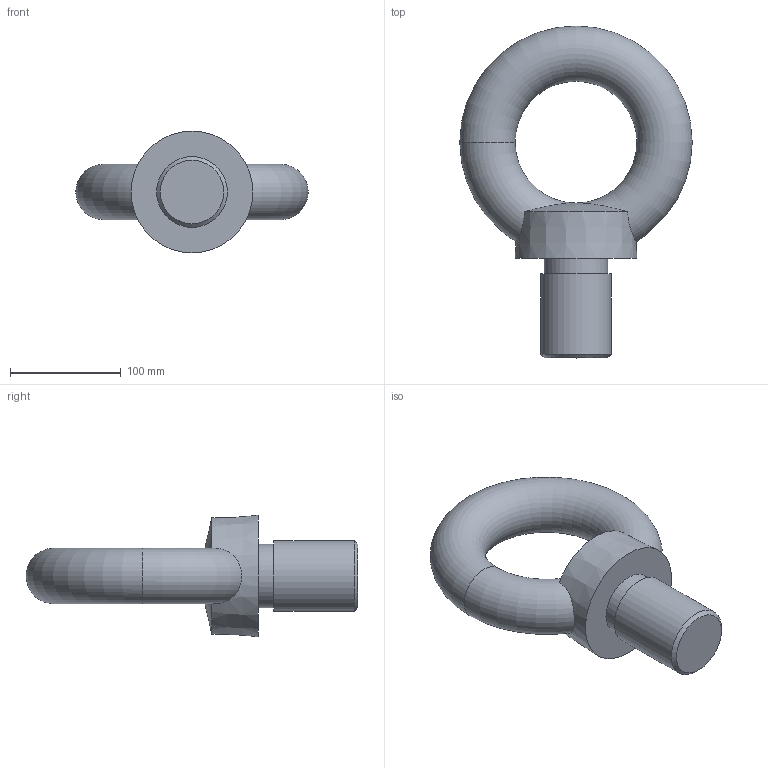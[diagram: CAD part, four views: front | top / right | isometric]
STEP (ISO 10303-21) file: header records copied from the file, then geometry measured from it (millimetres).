
FILE_DESCRIPTION(/* description */ (''),/* implementation_level */ '2;1');
FILE_NAME(/* name */ 'C:\Users\D\Documents\Inventor\各種小物\JIS\アイボルト\M64.stp',/* time_stamp */ '2022-04-27T11:43:17+09:00',/* author */ ('D'),/* organization */ (''),/* preprocessor_version */ 'ST-DEVELOPER v18',/* originating_system */ 'Autodesk Inventor 2020',/* authorisation */ '');
FILE_SCHEMA (('AUTOMOTIVE_DESIGN { 1 0 10303 214 3 1 1 }'));
Length unit declared in the file: millimetre
Products named in the file (1): M8
Bounding box: 210 x 300 x 110 mm (x, y, z)
Volume: 1504773 mm3; surface area: 112321 mm2
Topology: 1 solids, 1 shells, 11 faces, 27 edges, 18 vertices
Faces by surface type: plane 3, cone 2, cylinder 2, sphere 2, torus 2
Full cylindrical faces by diameter (mm): 57.5 x1, 64 x1
Entity records: 461 total; most frequent: CARTESIAN_POINT 150, DIRECTION 60, ORIENTED_EDGE 54, AXIS2_PLACEMENT_3D 28, EDGE_CURVE 27, VERTEX_POINT 18, CIRCLE 16, EDGE_LOOP 13
